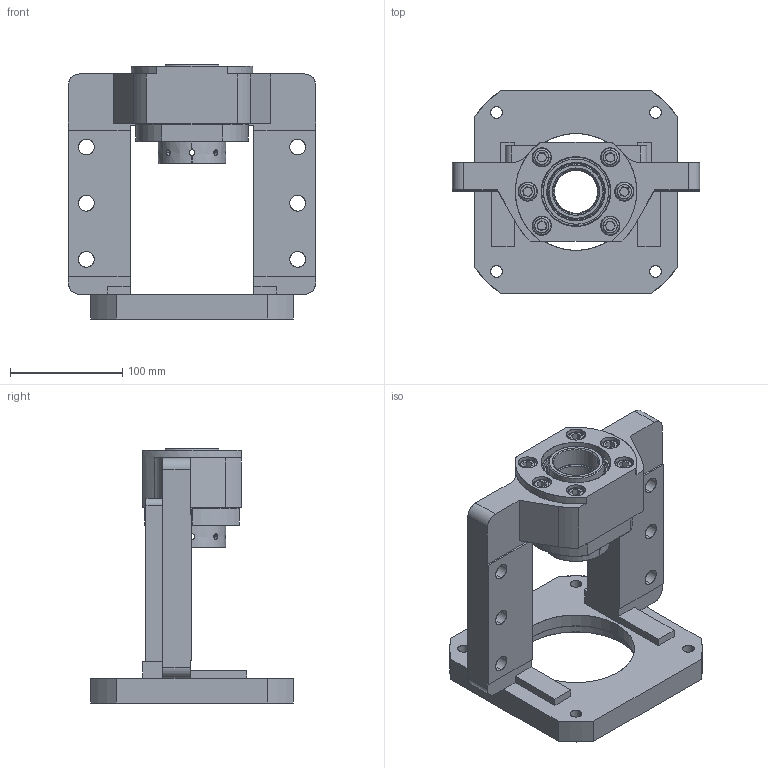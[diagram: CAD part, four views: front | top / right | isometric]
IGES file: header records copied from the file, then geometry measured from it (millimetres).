
Start section: SolidWorks IGES file using analytic representation for surfaces
Global section: file name: C:\Users\044\Desktop\快捷\MBCS40L-H.IGS,1; native system: 5HSolidWorks 2018; preprocessor: SolidWorks 2018; author: 044; date: 241021.151556; units: millimetre
Bounding box: 220 x 180 x 226 mm (x, y, z)
Surface area: 228568.1 mm2 (no closed solid volume)
Topology: 0 solids, 0 shells, 330 faces, 5912 edges, 5904 vertices
Faces by surface type: revolution 185, bspline 145
